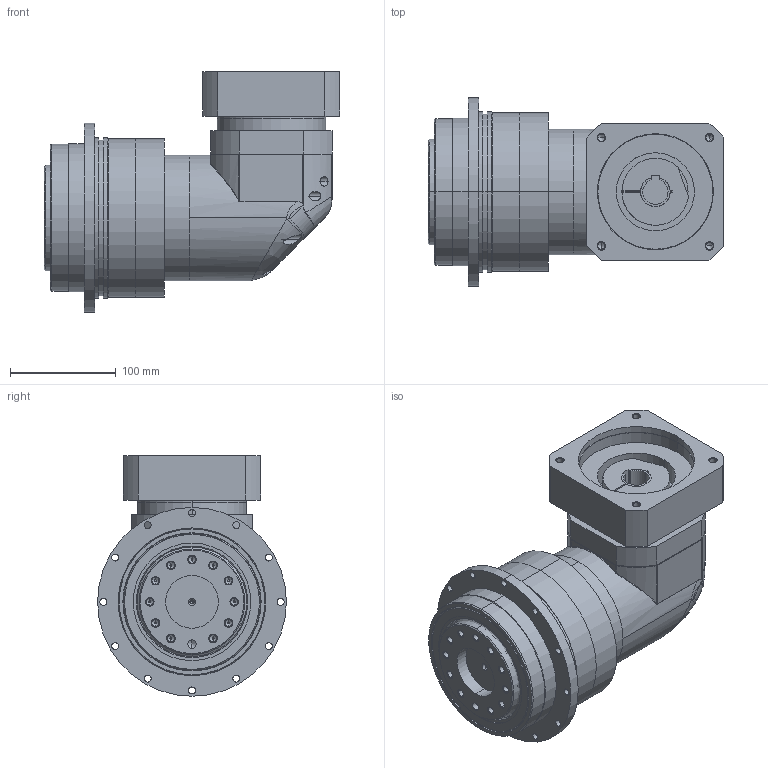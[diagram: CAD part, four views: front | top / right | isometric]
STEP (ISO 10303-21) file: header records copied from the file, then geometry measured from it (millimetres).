
FILE_DESCRIPTION (( 'STEP AP203' ), '1' );
FILE_NAME ('ADR140-L2-24-110-145-M8（入力带键槽）.STEP', '2024-05-08T06:55:34', ( '' ), ( '' ), 'SwSTEP 2.0', 'SolidWorks 2015', '' );
FILE_SCHEMA (( 'CONFIG_CONTROL_DESIGN' ));
Length unit declared in the file: millimetre
Products named in the file (1): ADR140-L2-24-110-145-M8（入力带键槽）
Bounding box: 280.5 x 179 x 228 mm (x, y, z)
Volume: 3776044.8 mm3; surface area: 444283.3 mm2
Topology: 9 solids, 10 shells, 565 faces, 1345 edges, 809 vertices
Faces by surface type: cylinder 223, cone 150, plane 98, bspline 88, torus 6
Entity records: 25176 total; most frequent: CARTESIAN_POINT 12593, ORIENTED_EDGE 2622, DIRECTION 2516, EDGE_CURVE 1311, AXIS2_PLACEMENT_3D 1022, VERTEX_POINT 809, EDGE_LOOP 682, FACE_OUTER_BOUND 565
